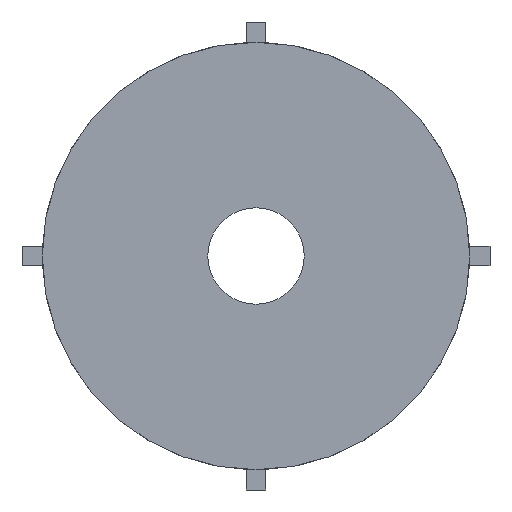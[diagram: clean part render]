
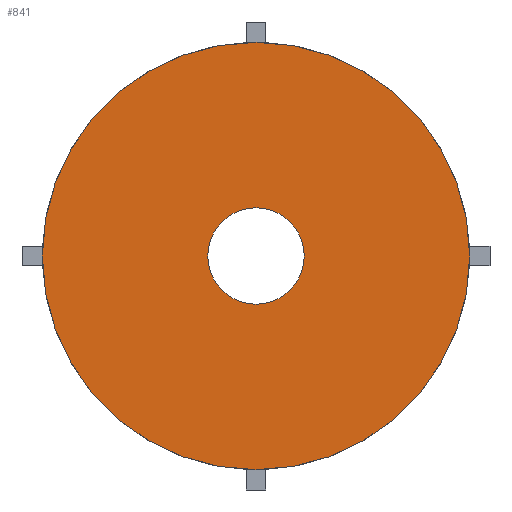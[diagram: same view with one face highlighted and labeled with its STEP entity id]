
A CAD part, left-side view. The second image highlights one B-rep face of the part: STEP entity #841.
In plain terms, the highlighted planar face has unit normal (-1, 0, 0).
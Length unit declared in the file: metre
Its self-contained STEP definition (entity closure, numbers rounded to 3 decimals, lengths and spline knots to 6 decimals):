
#31=CIRCLE('',#907,0.0775);
#32=CIRCLE('',#909,0.0175);
#259=ORIENTED_EDGE('',*,*,#377,.T.);
#260=ORIENTED_EDGE('',*,*,#376,.F.);
#376=EDGE_CURVE('',#451,#451,#31,.T.);
#377=EDGE_CURVE('',#452,#452,#32,.T.);
#451=VERTEX_POINT('',#1357);
#452=VERTEX_POINT('',#1360);
#705=EDGE_LOOP('',(#259));
#706=EDGE_LOOP('',(#260));
#753=FACE_BOUND('',#705,.T.);
#754=FACE_BOUND('',#706,.T.);
#798=PLANE('',#908);
#841=ADVANCED_FACE('',(#753,#754),#798,.F.);
#907=AXIS2_PLACEMENT_3D('',#1356,#1119,#1120);
#908=AXIS2_PLACEMENT_3D('',#1358,#1121,#1122);
#909=AXIS2_PLACEMENT_3D('',#1359,#1123,#1124);
#1119=DIRECTION('',(1.,0.,0.));
#1120=DIRECTION('',(0.,0.,-1.));
#1121=DIRECTION('',(1.,0.,0.));
#1122=DIRECTION('',(0.,1.,0.));
#1123=DIRECTION('',(1.,0.,0.));
#1124=DIRECTION('',(0.,0.,-1.));
#1356=CARTESIAN_POINT('',(-0.055,0.,0.));
#1357=CARTESIAN_POINT('',(-0.055,0.,-0.0775));
#1358=CARTESIAN_POINT('',(-0.055,0.,0.));
#1359=CARTESIAN_POINT('',(-0.055,0.,0.));
#1360=CARTESIAN_POINT('',(-0.055,0.,-0.0175));
